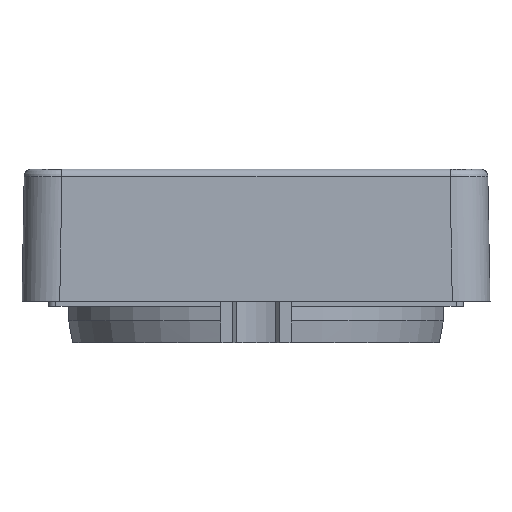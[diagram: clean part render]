
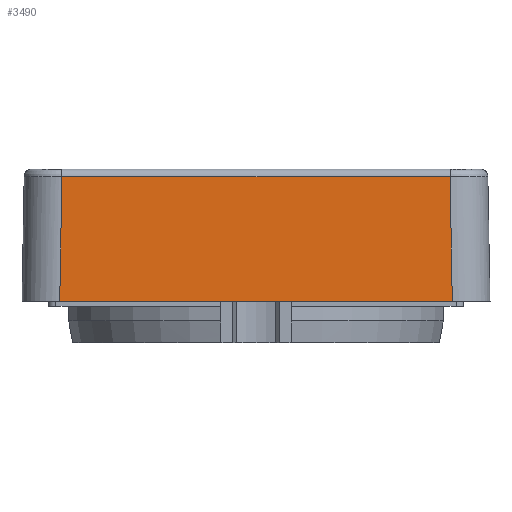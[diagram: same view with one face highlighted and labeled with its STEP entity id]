
A CAD part, front view. The second image highlights one B-rep face of the part: STEP entity #3490.
In plain terms, the highlighted planar face has unit normal (0, -1, 0.018).
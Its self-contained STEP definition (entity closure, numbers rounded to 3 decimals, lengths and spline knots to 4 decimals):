
#3490=ADVANCED_FACE('',(#5748),#4751,.T.);
#4751=PLANE('',#28106);
#5748=FACE_OUTER_BOUND('',#7291,.T.);
#7291=EDGE_LOOP('',(#11050,#11051,#11052,#11053));
#11050=ORIENTED_EDGE('',*,*,#20052,.F.);
#11051=ORIENTED_EDGE('',*,*,#20053,.T.);
#11052=ORIENTED_EDGE('',*,*,#20054,.F.);
#11053=ORIENTED_EDGE('',*,*,#20055,.F.);
#17071=VERTEX_POINT('',#41940);
#17072=VERTEX_POINT('',#41941);
#17073=VERTEX_POINT('',#41943);
#17074=VERTEX_POINT('',#41945);
#20052=EDGE_CURVE('',#17071,#17072,#23425,.T.);
#20053=EDGE_CURVE('',#17071,#17073,#23426,.T.);
#20054=EDGE_CURVE('',#17074,#17073,#23427,.T.);
#20055=EDGE_CURVE('',#17072,#17074,#23428,.T.);
#23425=LINE('',#41939,#25820);
#23426=LINE('',#41942,#25821);
#23427=LINE('',#41944,#25822);
#23428=LINE('',#41946,#25823);
#25820=VECTOR('',#31432,1.);
#25821=VECTOR('',#31433,1.);
#25822=VECTOR('',#31434,1.);
#25823=VECTOR('',#31435,1.);
#28106=AXIS2_PLACEMENT_3D('',#41947,#31436,#31437);
#31432=DIRECTION('',(0.017,0.017,1.));
#31433=DIRECTION('',(1.,0.,0.));
#31434=DIRECTION('',(0.017,-0.017,-1.));
#31435=DIRECTION('',(1.,0.,0.));
#31436=DIRECTION('',(0.,-1.,0.017));
#31437=DIRECTION('',(0.,-0.017,-1.));
#41939=CARTESIAN_POINT('',(-5.0115,-1.2083,0.6955));
#41940=CARTESIAN_POINT('',(-5.0237,-1.2205,-0.001));
#41941=CARTESIAN_POINT('',(-5.0123,-1.2091,0.6493));
#41942=CARTESIAN_POINT('',(-5.2205,-1.2205,-0.001));
#41943=CARTESIAN_POINT('',(-2.9763,-1.2205,-0.001));
#41944=CARTESIAN_POINT('',(-2.9887,-1.2081,0.7055));
#41945=CARTESIAN_POINT('',(-2.9877,-1.2091,0.6493));
#41946=CARTESIAN_POINT('',(-4.6102,-1.2091,0.6493));
#41947=CARTESIAN_POINT('',(-5.2205,-1.2084,0.6879));
